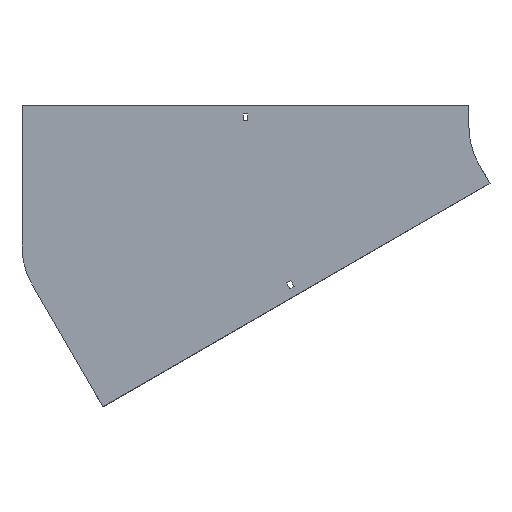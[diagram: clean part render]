
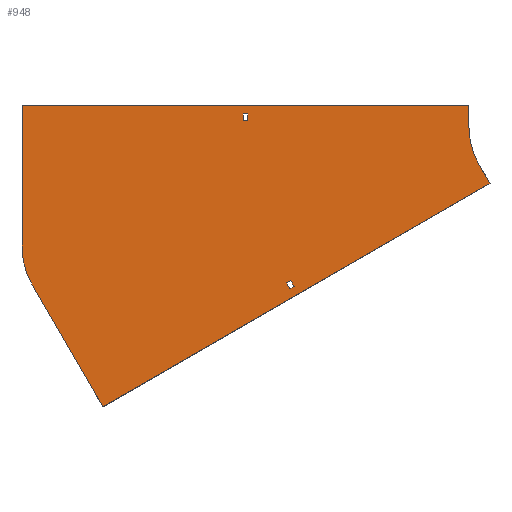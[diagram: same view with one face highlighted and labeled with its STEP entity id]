
A CAD part, front view. The second image highlights one B-rep face of the part: STEP entity #948.
In plain terms, the highlighted planar face has unit normal (0, -1, 0).
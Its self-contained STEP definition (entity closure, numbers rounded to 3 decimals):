
#21 = CARTESIAN_POINT ( 'NONE',  ( 0., 0., 0. ) ) ;
#28 = AXIS2_PLACEMENT_3D ( 'NONE', #884, #542, #1094 ) ;
#31 = CARTESIAN_POINT ( 'NONE',  ( -704., 0., -161.841 ) ) ;
#50 = EDGE_CURVE ( 'NONE', #1352, #864, #619, .T. ) ;
#58 = EDGE_LOOP ( 'NONE', ( #416, #905, #1215, #703 ) ) ;
#86 = ORIENTED_EDGE ( 'NONE', *, *, #696, .F. ) ;
#89 = DIRECTION ( 'NONE',  ( -0.866, 0., -0.5 ) ) ;
#93 = LINE ( 'NONE', #301, #168 ) ;
#107 = VECTOR ( 'NONE', #1056, 1000. ) ;
#121 = ORIENTED_EDGE ( 'NONE', *, *, #1009, .T. ) ;
#128 = VERTEX_POINT ( 'NONE', #834 ) ;
#147 = CARTESIAN_POINT ( 'NONE',  ( -405.25, 0., 9. ) ) ;
#163 = ORIENTED_EDGE ( 'NONE', *, *, #698, .F. ) ;
#168 = VECTOR ( 'NONE', #958, 1000. ) ;
#169 = CARTESIAN_POINT ( 'NONE',  ( -86.603, 0., -50. ) ) ;
#176 = DIRECTION ( 'NONE',  ( 0., 0., 1. ) ) ;
#185 = DIRECTION ( 'NONE',  ( 0., -1., 0. ) ) ;
#196 = LINE ( 'NONE', #495, #1400 ) ;
#206 = CARTESIAN_POINT ( 'NONE',  ( -346.457, 0., -210.419 ) ) ;
#208 = CARTESIAN_POINT ( 'NONE',  ( -594.682, 0., -377.981 ) ) ;
#245 = DIRECTION ( 'NONE',  ( -0.5, 0., 0.866 ) ) ;
#249 = CARTESIAN_POINT ( 'NONE',  ( -86.603, 0., -50. ) ) ;
#262 = ORIENTED_EDGE ( 'NONE', *, *, #921, .F. ) ;
#266 = CARTESIAN_POINT ( 'NONE',  ( -336.328, 0., -214.963 ) ) ;
#268 = VERTEX_POINT ( 'NONE', #1066 ) ;
#269 = EDGE_CURVE ( 'NONE', #959, #1257, #93, .T. ) ;
#274 = ORIENTED_EDGE ( 'NONE', *, *, #941, .T. ) ;
#283 = VECTOR ( 'NONE', #245, 1000. ) ;
#288 = VECTOR ( 'NONE', #510, 1000. ) ;
#300 = EDGE_CURVE ( 'NONE', #850, #439, #1185, .T. ) ;
#301 = CARTESIAN_POINT ( 'NONE',  ( -405.25, 0., 18. ) ) ;
#308 = LINE ( 'NONE', #1178, #422 ) ;
#314 = CARTESIAN_POINT ( 'NONE',  ( -340.828, 0., -207.169 ) ) ;
#327 = CARTESIAN_POINT ( 'NONE',  ( -346.457, 0., -210.419 ) ) ;
#329 = EDGE_CURVE ( 'NONE', #712, #1034, #1392, .T. ) ;
#350 = EDGE_LOOP ( 'NONE', ( #274, #737, #121, #979 ) ) ;
#353 = AXIS2_PLACEMENT_3D ( 'NONE', #21, #701, #1233 ) ;
#379 = EDGE_CURVE ( 'NONE', #1034, #268, #467, .T. ) ;
#391 = LINE ( 'NONE', #314, #600 ) ;
#396 = AXIS2_PLACEMENT_3D ( 'NONE', #928, #185, #752 ) ;
#416 = ORIENTED_EDGE ( 'NONE', *, *, #1207, .F. ) ;
#417 = CARTESIAN_POINT ( 'NONE',  ( -71.603, 0., -75.981 ) ) ;
#422 = VECTOR ( 'NONE', #1032, 1000. ) ;
#423 = EDGE_CURVE ( 'NONE', #1099, #710, #919, .T. ) ;
#426 = EDGE_LOOP ( 'NONE', ( #262, #1091, #86, #163, #571, #1372, #618, #1212 ) ) ;
#439 = VERTEX_POINT ( 'NONE', #208 ) ;
#450 = CARTESIAN_POINT ( 'NONE',  ( -690.603, 0., -211.841 ) ) ;
#463 = CARTESIAN_POINT ( 'NONE',  ( -341.957, 0., -218.213 ) ) ;
#464 = CARTESIAN_POINT ( 'NONE',  ( -71.603, 0., -75.981 ) ) ;
#467 = LINE ( 'NONE', #1010, #1330 ) ;
#477 = LINE ( 'NONE', #31, #766 ) ;
#487 = CARTESIAN_POINT ( 'NONE',  ( -405.25, 0., 9. ) ) ;
#495 = CARTESIAN_POINT ( 'NONE',  ( -405.25, 0., 9. ) ) ;
#503 = CARTESIAN_POINT ( 'NONE',  ( -405.25, 0., 18. ) ) ;
#504 = VECTOR ( 'NONE', #1248, 1000. ) ;
#510 = DIRECTION ( 'NONE',  ( -0.866, 0., -0.5 ) ) ;
#542 = DIRECTION ( 'NONE',  ( 0., 1., 0. ) ) ;
#556 = CARTESIAN_POINT ( 'NONE',  ( -704., 0., -161.841 ) ) ;
#557 = CIRCLE ( 'NONE', #353, 100. ) ;
#571 = ORIENTED_EDGE ( 'NONE', *, *, #300, .F. ) ;
#576 = VECTOR ( 'NONE', #1123, 1000. ) ;
#591 = DIRECTION ( 'NONE',  ( 0., 0., 1. ) ) ;
#600 = VECTOR ( 'NONE', #963, 1000. ) ;
#618 = ORIENTED_EDGE ( 'NONE', *, *, #1120, .F. ) ;
#619 = LINE ( 'NONE', #1051, #1087 ) ;
#665 = CARTESIAN_POINT ( 'NONE',  ( -100., 0., 30. ) ) ;
#682 = VERTEX_POINT ( 'NONE', #450 ) ;
#696 = EDGE_CURVE ( 'NONE', #682, #1109, #1329, .T. ) ;
#698 = EDGE_CURVE ( 'NONE', #439, #682, #782, .T. ) ;
#701 = DIRECTION ( 'NONE',  ( 0., -1., 0. ) ) ;
#703 = ORIENTED_EDGE ( 'NONE', *, *, #1356, .F. ) ;
#710 = VERTEX_POINT ( 'NONE', #147 ) ;
#712 = VERTEX_POINT ( 'NONE', #898 ) ;
#724 = FACE_BOUND ( 'NONE', #350, .T. ) ;
#727 = VERTEX_POINT ( 'NONE', #266 ) ;
#729 = CARTESIAN_POINT ( 'NONE',  ( -398.75, 0., 18. ) ) ;
#736 = EDGE_CURVE ( 'NONE', #1109, #128, #477, .T. ) ;
#737 = ORIENTED_EDGE ( 'NONE', *, *, #269, .T. ) ;
#744 = CARTESIAN_POINT ( 'NONE',  ( -100., 0., 0. ) ) ;
#752 = DIRECTION ( 'NONE',  ( 0., 0., -1. ) ) ;
#766 = VECTOR ( 'NONE', #591, 1000. ) ;
#770 = CARTESIAN_POINT ( 'NONE',  ( -398.75, 0., 9. ) ) ;
#782 = LINE ( 'NONE', #1219, #283 ) ;
#791 = LINE ( 'NONE', #463, #576 ) ;
#795 = VERTEX_POINT ( 'NONE', #249 ) ;
#828 = LINE ( 'NONE', #1259, #892 ) ;
#834 = CARTESIAN_POINT ( 'NONE',  ( -704., 0., 30. ) ) ;
#836 = FACE_BOUND ( 'NONE', #58, .T. ) ;
#850 = VERTEX_POINT ( 'NONE', #464 ) ;
#864 = VERTEX_POINT ( 'NONE', #744 ) ;
#876 = DIRECTION ( 'NONE',  ( 0., 0., -1. ) ) ;
#884 = CARTESIAN_POINT ( 'NONE',  ( -604., 0., -161.841 ) ) ;
#889 = DIRECTION ( 'NONE',  ( 0.5, 0., -0.866 ) ) ;
#892 = VECTOR ( 'NONE', #876, 1000. ) ;
#898 = CARTESIAN_POINT ( 'NONE',  ( -340.828, 0., -207.169 ) ) ;
#905 = ORIENTED_EDGE ( 'NONE', *, *, #379, .F. ) ;
#919 = LINE ( 'NONE', #487, #504 ) ;
#921 = EDGE_CURVE ( 'NONE', #128, #1352, #308, .T. ) ;
#928 = CARTESIAN_POINT ( 'NONE',  ( 0., 0., 0. ) ) ;
#941 = EDGE_CURVE ( 'NONE', #710, #959, #196, .T. ) ;
#944 = DIRECTION ( 'NONE',  ( 0., 0., -1. ) ) ;
#948 = ADVANCED_FACE ( 'NONE', ( #724, #1044, #836 ), #1169, .T. ) ;
#958 = DIRECTION ( 'NONE',  ( 1., 0., 0. ) ) ;
#959 = VERTEX_POINT ( 'NONE', #503 ) ;
#963 = DIRECTION ( 'NONE',  ( -0.5, 0., 0.866 ) ) ;
#979 = ORIENTED_EDGE ( 'NONE', *, *, #423, .T. ) ;
#984 = EDGE_CURVE ( 'NONE', #795, #850, #1037, .T. ) ;
#1009 = EDGE_CURVE ( 'NONE', #1257, #1099, #828, .T. ) ;
#1010 = CARTESIAN_POINT ( 'NONE',  ( -346.457, 0., -210.419 ) ) ;
#1032 = DIRECTION ( 'NONE',  ( 1., 0., 0. ) ) ;
#1034 = VERTEX_POINT ( 'NONE', #327 ) ;
#1037 = LINE ( 'NONE', #169, #107 ) ;
#1044 = FACE_OUTER_BOUND ( 'NONE', #426, .T. ) ;
#1051 = CARTESIAN_POINT ( 'NONE',  ( -100., 0., 30. ) ) ;
#1056 = DIRECTION ( 'NONE',  ( 0.5, 0., -0.866 ) ) ;
#1066 = CARTESIAN_POINT ( 'NONE',  ( -341.957, 0., -218.213 ) ) ;
#1087 = VECTOR ( 'NONE', #944, 1000. ) ;
#1089 = VECTOR ( 'NONE', #89, 1000. ) ;
#1091 = ORIENTED_EDGE ( 'NONE', *, *, #736, .F. ) ;
#1094 = DIRECTION ( 'NONE',  ( 0., 0., 1. ) ) ;
#1099 = VERTEX_POINT ( 'NONE', #770 ) ;
#1109 = VERTEX_POINT ( 'NONE', #556 ) ;
#1120 = EDGE_CURVE ( 'NONE', #864, #795, #557, .T. ) ;
#1123 = DIRECTION ( 'NONE',  ( 0.866, 0., 0.5 ) ) ;
#1169 = PLANE ( 'NONE',  #396 ) ;
#1178 = CARTESIAN_POINT ( 'NONE',  ( -704., 0., 30. ) ) ;
#1185 = LINE ( 'NONE', #417, #288 ) ;
#1207 = EDGE_CURVE ( 'NONE', #268, #727, #791, .T. ) ;
#1212 = ORIENTED_EDGE ( 'NONE', *, *, #50, .F. ) ;
#1215 = ORIENTED_EDGE ( 'NONE', *, *, #329, .F. ) ;
#1219 = CARTESIAN_POINT ( 'NONE',  ( -594.682, 0., -377.981 ) ) ;
#1233 = DIRECTION ( 'NONE',  ( 0., 0., -1. ) ) ;
#1248 = DIRECTION ( 'NONE',  ( -1., 0., 0. ) ) ;
#1257 = VERTEX_POINT ( 'NONE', #729 ) ;
#1259 = CARTESIAN_POINT ( 'NONE',  ( -398.75, 0., 9. ) ) ;
#1329 = CIRCLE ( 'NONE', #28, 100. ) ;
#1330 = VECTOR ( 'NONE', #889, 1000. ) ;
#1352 = VERTEX_POINT ( 'NONE', #665 ) ;
#1356 = EDGE_CURVE ( 'NONE', #727, #712, #391, .T. ) ;
#1372 = ORIENTED_EDGE ( 'NONE', *, *, #984, .F. ) ;
#1392 = LINE ( 'NONE', #206, #1089 ) ;
#1400 = VECTOR ( 'NONE', #176, 1000. ) ;
